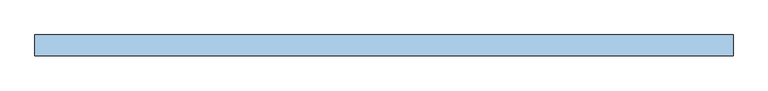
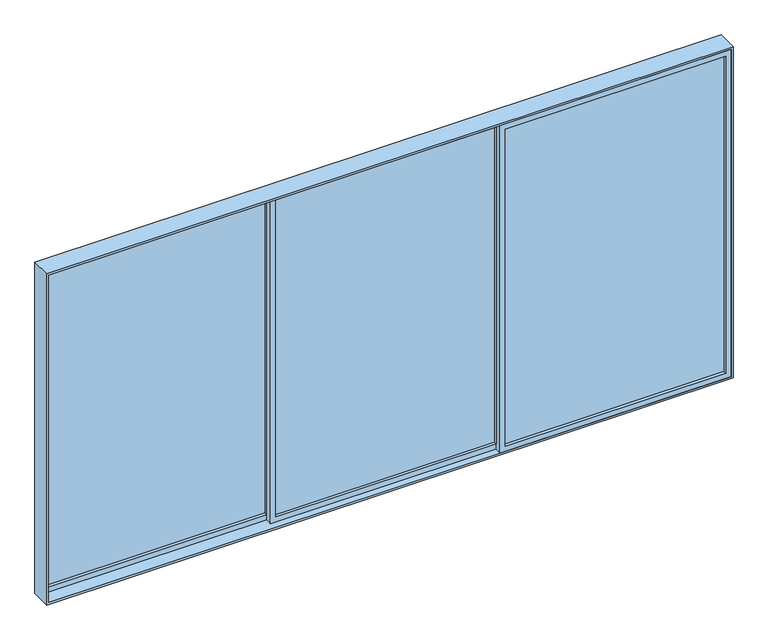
"""IFC4 building model written with IfcOpenShell, lengths in millimetres: window geometry, VENT_ALUM_CORR_3HOJAS_CORRE 2 : VD-14 / CORRE RECAM 5.0 X 2.55."""

from ifc_helpers import new_model, si_unit, frame, origin, place, context, project, spatial, polyline, outline, extrude, source, transform, mapped, element, save


def window_03be8d49(model_context):
    return source(origin(), model_context, "Body", "SweptSolid", [
        extrude(outline(polyline([(-2445.0, 47.0), (-2445.0, 53.0), (-841.6666667, 53.0), (-841.6666667, 47.0), (-2445.0, 47.0)])), frame((0.0, 0.0, 855.0), z_axis=(0.0, 0.0, 1.0), x_axis=(1.0, 0.0, 0.0)), (0.0, 0.0, 1.0), 2440.0),
        extrude(outline(polyline([(3335.0, -2485.0), (815.0, -2485.0), (815.0, -801.6666667), (3335.0, -801.6666667), (3335.0, -2485.0)]), holes=[polyline([(855.0, -2445.0), (3295.0, -2445.0), (3295.0, -841.6666667), (855.0, -841.6666667), (855.0, -2445.0)])]), frame((0.0, 25.0, 0.0), z_axis=(0.0, 1.0, 0.0), x_axis=(0.0, 0.0, 1.0)), (0.0, 0.0, 1.0), 50.0),
        extrude(outline(polyline([(-801.6666667, -3.0), (-801.6666667, 3.0), (801.6666667, 3.0), (801.6666667, -3.0), (-801.6666667, -3.0)])), frame((0.0, 0.0, 855.0), z_axis=(0.0, 0.0, 1.0), x_axis=(1.0, 0.0, 0.0)), (0.0, 0.0, 1.0), 2440.0),
        extrude(outline(polyline([(3335.0, -841.6666667), (815.0, -841.6666667), (815.0, 841.6666667), (3335.0, 841.6666667), (3335.0, -841.6666667)]), holes=[polyline([(855.0, -801.6666667), (3295.0, -801.6666667), (3295.0, 801.6666667), (855.0, 801.6666667), (855.0, -801.6666667)])]), frame((0.0, -25.0, 0.0), z_axis=(0.0, 1.0, 0.0), x_axis=(0.0, 0.0, 1.0)), (0.0, 0.0, 1.0), 50.0),
        extrude(outline(polyline([(841.6666667, -53.0), (841.6666667, -47.0), (2445.0, -47.0), (2445.0, -53.0), (841.6666667, -53.0)])), frame((0.0, 0.0, 855.0), z_axis=(0.0, 0.0, 1.0), x_axis=(1.0, 0.0, 0.0)), (0.0, 0.0, 1.0), 2440.0),
        extrude(outline(polyline([(3335.0, 801.6666667), (815.0, 801.6666667), (815.0, 2485.0), (3335.0, 2485.0), (3335.0, 801.6666667)]), holes=[polyline([(855.0, 841.6666667), (3295.0, 841.6666667), (3295.0, 2445.0), (855.0, 2445.0), (855.0, 841.6666667)])]), frame((0.0, -75.0, 0.0), z_axis=(0.0, 1.0, 0.0), x_axis=(0.0, 0.0, 1.0)), (0.0, 0.0, 1.0), 50.0),
        extrude(outline(polyline([(3350.0, -2500.0), (800.0, -2500.0), (800.0, 2500.0), (3350.0, 2500.0), (3350.0, -2500.0)]), holes=[polyline([(815.0, -2485.0), (3335.0, -2485.0), (3335.0, 2485.0), (815.0, 2485.0), (815.0, -2485.0)])]), frame((0.0, -75.0, 0.0), z_axis=(0.0, 1.0, 0.0), x_axis=(0.0, 0.0, 1.0)), (0.0, 0.0, 1.0), 150.0),
    ])


if __name__ == "__main__":
    model = new_model("IFC4")
    model_context = context("Model", 3, world=origin())
    ifc_project = project(units=[si_unit("LENGTHUNIT", "METRE", prefix="MILLI")], contexts=[model_context])
    site = spatial("IfcSite", under=ifc_project)
    building = spatial("IfcBuilding", under=site)
    placement = place(None, origin())
    window_shape = window_03be8d49(model_context)
    element("IfcWindow", 1, ObjectType="VENT_ALUM_CORR_3HOJAS_CORRE 2 : VD-14 / CORRE RECAM 5.0 X 2.55", at=placement, inside=building, context=model_context, shape_type="MappedRepresentation", body=[
        mapped(window_shape, transform((0.0, 0.0, 0.0), x_axis=(1.0, 0.0, 0.0), y_axis=(0.0, 1.0, 0.0), z_axis=(0.0, 0.0, 1.0))),
    ])
    save(model, "model.ifc")
